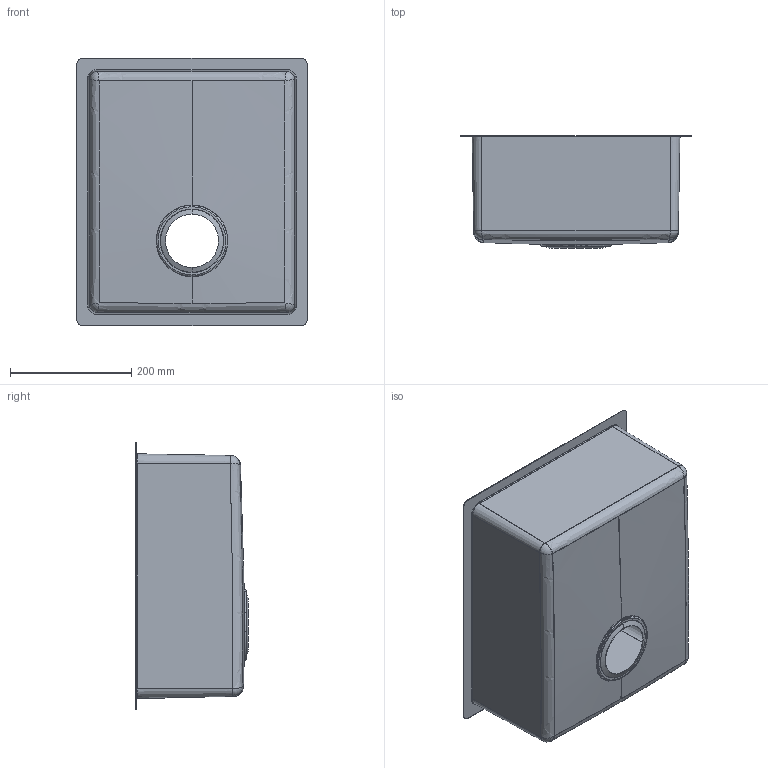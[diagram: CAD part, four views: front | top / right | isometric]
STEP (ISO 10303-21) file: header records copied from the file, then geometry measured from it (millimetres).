
FILE_DESCRIPTION (( 'STEP AP214' ), '1' );
FILE_NAME ('Morath Becken MR15-34 (SER 34) mit Rand.STEP', '2023-02-07T07:27:23', ( '' ), ( '' ), 'SwSTEP 2.0', 'SolidWorks 2022', '' );
FILE_SCHEMA (( 'AUTOMOTIVE_DESIGN' ));
Length unit declared in the file: millimetre
Products named in the file (1): Morath Becken MR15-34 (SER 34) mit Rand
Bounding box: 380 x 185 x 440 mm (x, y, z)
Volume: 394518.4 mm3; surface area: 796291.3 mm2
Topology: 1 solids, 1 shells, 130 faces, 304 edges, 172 vertices
Faces by surface type: bspline 52, cylinder 40, plane 22, cone 16
Entity records: 13455 total; most frequent: CARTESIAN_POINT 10795, ORIENTED_EDGE 592, DIRECTION 494, EDGE_CURVE 296, AXIS2_PLACEMENT_3D 195, VERTEX_POINT 172, EDGE_LOOP 138, ADVANCED_FACE 130
